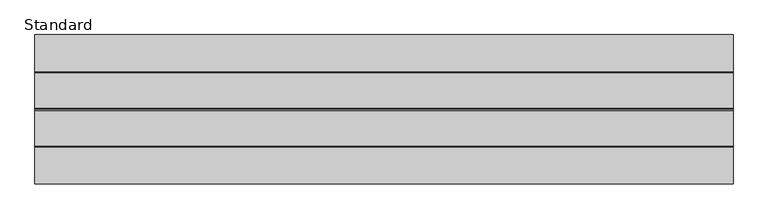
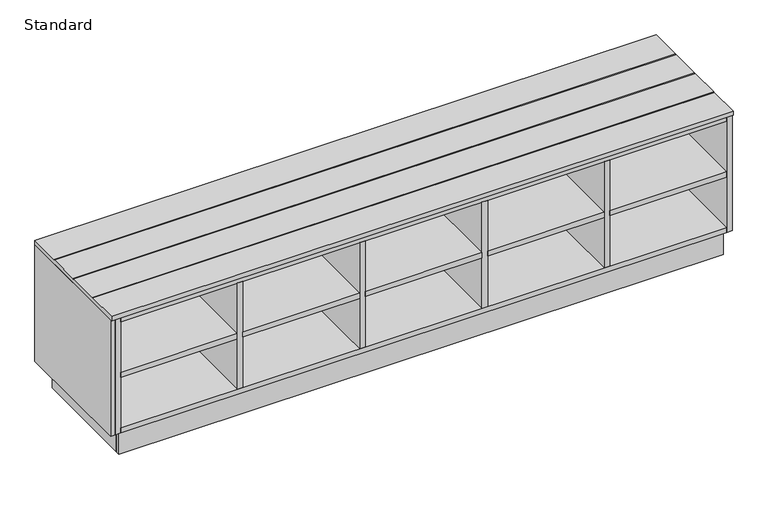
"""IFC4 building model written with IfcOpenShell, lengths in millimetres: furniture geometry, X_Bench-Wall-Duracube-Shoe Box : Standard."""

from ifc_helpers import new_model, si_unit, frame, origin, origin_with_axes, place, context, project, spatial, polyline, outline, extrude, source, transform, mapped, element, save


def standard_c98aecbe(model_context):
    return source(origin(), model_context, "Body", "SweptSolid", [
        extrude(outline(polyline([(-792.2996736, -407.5), (931.7003264, -407.5), (931.7003264, -729.5), (915.7003264, -729.5), (915.7003264, -423.5), (-776.2996736, -423.5), (-776.2996736, -729.5), (-792.2996736, -729.5), (-792.2996736, -407.5)])), origin_with_axes(), (0.0, 0.0, 1.0), 100.0),
        extrude(outline(polyline([(931.7003264, -729.5), (931.7003264, -407.5), (944.7003264, -407.5), (944.7003264, -729.5), (931.7003264, -729.5)])), origin_with_axes(), (0.0, 0.0, 1.0), 100.0),
        extrude(outline(polyline([(-792.2996736, -729.5), (-805.2996736, -729.5), (-805.2996736, -407.5), (-792.2996736, -407.5), (-792.2996736, -729.5)])), origin_with_axes(), (0.0, 0.0, 1.0), 100.0),
        extrude(outline(polyline([(-407.5, 457.0), (-792.5, 457.0), (-792.5, 470.0), (-698.5, 470.0), (-696.5, 468.0), (-694.5, 470.0), (-602.5, 470.0), (-600.5, 468.0), (-598.5, 470.0), (-506.5, 470.0), (-504.5, 468.0), (-502.5, 470.0), (-407.5, 470.0), (-407.5, 457.0)])), frame((-855.2996736, 0.0, 0.0), z_axis=(1.0, 0.0, 0.0), x_axis=(0.0, 1.0, 0.0)), (0.0, 0.0, 1.0), 1800.0),
        extrude(outline(polyline([(928.7003264, -423.5), (928.7003264, -787.5), (590.5003264, -787.5), (590.5003264, -423.5), (928.7003264, -423.5)])), frame((0.0, 0.0, 270.5), z_axis=(0.0, 0.0, 1.0), x_axis=(1.0, 0.0, 0.0)), (0.0, 0.0, 1.0), 16.0),
        extrude(outline(polyline([(574.5003264, -423.5), (574.5003264, -787.5), (236.3003264, -787.5), (236.3003264, -423.5), (574.5003264, -423.5)])), frame((0.0, 0.0, 270.5), z_axis=(0.0, 0.0, 1.0), x_axis=(1.0, 0.0, 0.0)), (0.0, 0.0, 1.0), 16.0),
        extrude(outline(polyline([(220.3003264, -423.5), (220.3003264, -787.5), (-117.8996736, -787.5), (-117.8996736, -423.5), (220.3003264, -423.5)])), frame((0.0, 0.0, 270.5), z_axis=(0.0, 0.0, 1.0), x_axis=(1.0, 0.0, 0.0)), (0.0, 0.0, 1.0), 16.0),
        extrude(outline(polyline([(-133.8996736, -423.5), (-133.8996736, -787.5), (-472.0996736, -787.5), (-472.0996736, -423.5), (-133.8996736, -423.5)])), frame((0.0, 0.0, 270.5), z_axis=(0.0, 0.0, 1.0), x_axis=(1.0, 0.0, 0.0)), (0.0, 0.0, 1.0), 16.0),
        extrude(outline(polyline([(590.5003264, -423.5), (590.5003264, -787.5), (574.5003264, -787.5), (574.5003264, -423.5), (590.5003264, -423.5)])), frame((0.0, 0.0, 116.0), z_axis=(0.0, 0.0, 1.0), x_axis=(1.0, 0.0, 0.0)), (0.0, 0.0, 1.0), 325.0),
        extrude(outline(polyline([(236.3003264, -423.5), (236.3003264, -787.5), (220.3003264, -787.5), (220.3003264, -423.5), (236.3003264, -423.5)])), frame((0.0, 0.0, 116.0), z_axis=(0.0, 0.0, 1.0), x_axis=(1.0, 0.0, 0.0)), (0.0, 0.0, 1.0), 325.0),
        extrude(outline(polyline([(-117.8996736, -423.5), (-117.8996736, -787.5), (-133.8996736, -787.5), (-133.8996736, -423.5), (-117.8996736, -423.5)])), frame((0.0, 0.0, 116.0), z_axis=(0.0, 0.0, 1.0), x_axis=(1.0, 0.0, 0.0)), (0.0, 0.0, 1.0), 325.0),
        extrude(outline(polyline([(-472.0996736, -423.5), (-472.0996736, -787.5), (-488.0996736, -787.5), (-488.0996736, -423.5), (-472.0996736, -423.5)])), frame((0.0, 0.0, 116.0), z_axis=(0.0, 0.0, 1.0), x_axis=(1.0, 0.0, 0.0)), (0.0, 0.0, 1.0), 325.0),
        extrude(outline(polyline([(944.7003264, -423.5), (944.7003264, -787.5), (928.7003264, -787.5), (928.7003264, -423.5), (944.7003264, -423.5)])), frame((0.0, 0.0, 100.0), z_axis=(0.0, 0.0, 1.0), x_axis=(1.0, 0.0, 0.0)), (0.0, 0.0, 1.0), 357.0),
        extrude(outline(polyline([(-826.2996736, -423.5), (-826.2996736, -787.5), (-842.2996736, -787.5), (-842.2996736, -423.5), (-826.2996736, -423.5)])), frame((0.0, 0.0, 100.0), z_axis=(0.0, 0.0, 1.0), x_axis=(1.0, 0.0, 0.0)), (0.0, 0.0, 1.0), 357.0),
        extrude(outline(polyline([(-488.0996736, -423.5), (-488.0996736, -787.5), (-826.2996736, -787.5), (-826.2996736, -423.5), (-488.0996736, -423.5)])), frame((0.0, 0.0, 270.5), z_axis=(0.0, 0.0, 1.0), x_axis=(1.0, 0.0, 0.0)), (0.0, 0.0, 1.0), 16.0),
        extrude(outline(polyline([(928.7003264, -423.5), (928.7003264, -787.5), (-826.2996736, -787.5), (-826.2996736, -423.5), (928.7003264, -423.5)])), frame((0.0, 0.0, 441.0), z_axis=(0.0, 0.0, 1.0), x_axis=(1.0, 0.0, 0.0)), (0.0, 0.0, 1.0), 16.0),
        extrude(outline(polyline([(928.7003264, -423.5), (928.7003264, -787.5), (-826.2996736, -787.5), (-826.2996736, -423.5), (928.7003264, -423.5)])), frame((0.0, 0.0, 100.0), z_axis=(0.0, 0.0, 1.0), x_axis=(1.0, 0.0, 0.0)), (0.0, 0.0, 1.0), 16.0),
        extrude(outline(polyline([(-855.2996736, -407.5), (-842.2996736, -407.5), (-842.2996736, -787.5), (-855.2996736, -787.5), (-855.2996736, -407.5)])), frame((0.0, 0.0, 100.0), z_axis=(0.0, 0.0, 1.0), x_axis=(1.0, 0.0, 0.0)), (0.0, 0.0, 1.0), 357.0),
        extrude(outline(polyline([(944.7003264, -407.5), (944.7003264, -423.5), (-842.2996736, -423.5), (-842.2996736, -407.5), (944.7003264, -407.5)])), frame((0.0, 0.0, 100.0), z_axis=(0.0, 0.0, 1.0), x_axis=(1.0, 0.0, 0.0)), (0.0, 0.0, 1.0), 357.0),
        extrude(outline(polyline([(915.7003264, -713.5), (915.7003264, -729.5), (-776.2996736, -729.5), (-776.2996736, -713.5), (915.7003264, -713.5)])), origin_with_axes(), (0.0, 0.0, 1.0), 100.0),
        extrude(outline(polyline([(944.7003264, -729.5), (944.7003264, -742.5), (-805.2996736, -742.5), (-805.2996736, -729.5), (944.7003264, -729.5)])), origin_with_axes(), (0.0, 0.0, 1.0), 100.0),
    ])


if __name__ == "__main__":
    model = new_model("IFC4")
    model_context = context("Model", 3, world=origin())
    ifc_project = project(units=[si_unit("LENGTHUNIT", "METRE", prefix="MILLI")], contexts=[model_context])
    site = spatial("IfcSite", under=ifc_project)
    building = spatial("IfcBuilding", under=site)
    placement = place(None, origin())
    standard_shape = standard_c98aecbe(model_context)
    element("IfcFurniture", 1, ObjectType="X_Bench-Wall-Duracube-Shoe Box : Standard", at=placement, inside=building, context=model_context, shape_type="MappedRepresentation", body=[
        mapped(standard_shape, transform((0.0, 0.0, 0.0), x_axis=(1.0, 0.0, 0.0), y_axis=(0.0, 1.0, 0.0), z_axis=(0.0, 0.0, 1.0))),
    ])
    save(model, "model.ifc")
